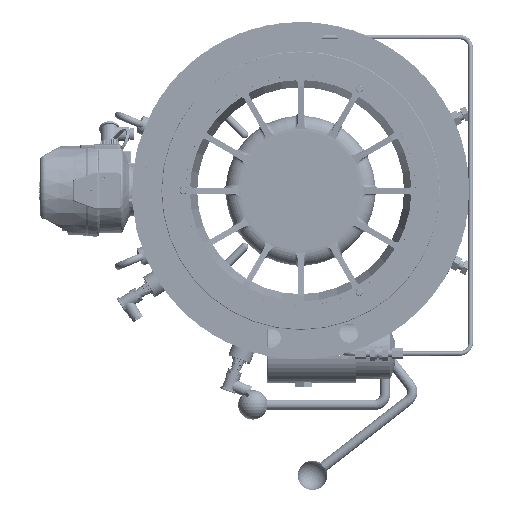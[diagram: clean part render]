
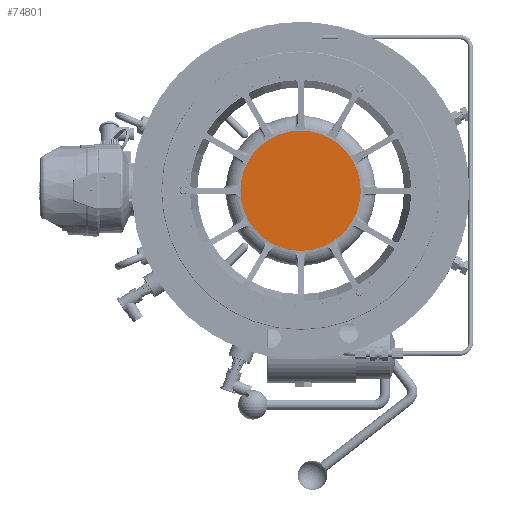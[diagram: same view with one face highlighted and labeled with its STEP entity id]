
A CAD part, left-side view. The second image highlights one B-rep face of the part: STEP entity #74801.
In plain terms, the highlighted planar face has unit normal (-1, 0, 0).
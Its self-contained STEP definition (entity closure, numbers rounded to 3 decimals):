
#68911=CARTESIAN_POINT('',(-20.,0.,0.));
#68912=DIRECTION('',(-1.,0.,0.));
#68913=DIRECTION('',(0.,1.,0.));
#68914=AXIS2_PLACEMENT_3D('',#68911,#68912,#68913);
#68919=CARTESIAN_POINT('',(-20.,0.,0.));
#68920=DIRECTION('',(1.,0.,0.));
#68921=DIRECTION('',(0.,1.,0.));
#68922=AXIS2_PLACEMENT_3D('',#68919,#68920,#68921);
#72830=CARTESIAN_POINT('',(-20.,82.,0.));
#72831=CARTESIAN_POINT('',(-20.,-82.,0.));
#72832=VERTEX_POINT('',#72830);
#72833=VERTEX_POINT('',#72831);
#74792=CARTESIAN_POINT('',(-20.,0.,0.));
#74793=DIRECTION('',(1.,0.,0.));
#74794=DIRECTION('',(0.,-1.,0.));
#74795=AXIS2_PLACEMENT_3D('',#74792,#74793,#74794);
#74796=PLANE('',#74795);
#74797=ORIENTED_EDGE('',*,*,#74448,.F.);
#74798=ORIENTED_EDGE('',*,*,#74219,.T.);
#74799=EDGE_LOOP('',(#74797,#74798));
#74800=FACE_OUTER_BOUND('',#74799,.F.);
#74801=ADVANCED_FACE('',(#74800),#74796,.F.);
#68915=CIRCLE('',#68914,82.);
#68923=CIRCLE('',#68922,82.);
#74219=EDGE_CURVE('',#72832,#72833,#68923,.T.);
#74448=EDGE_CURVE('',#72832,#72833,#68915,.T.);
